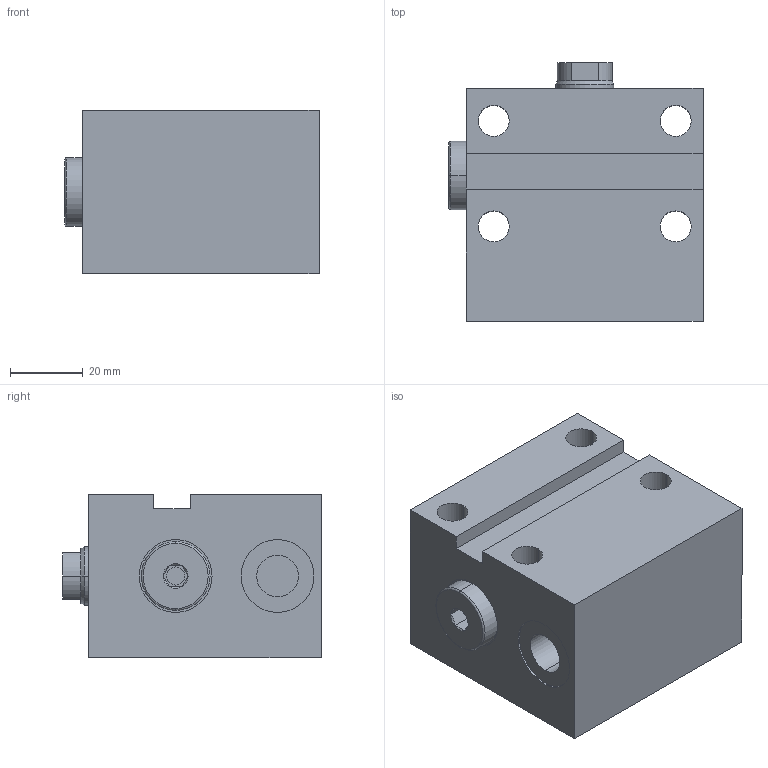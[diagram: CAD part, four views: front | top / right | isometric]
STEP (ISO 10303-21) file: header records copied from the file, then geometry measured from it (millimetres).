
FILE_DESCRIPTION (( 'STEP AP203' ), '1' );
FILE_NAME ('GERMA_Blockzylinder_651-025-008.STEP', '2023-08-26T14:42:11', ( '' ), ( '' ), 'SwSTEP 2.0', 'SolidWorks 2016', '' );
FILE_SCHEMA (( 'CONFIG_CONTROL_DESIGN' ));
Length unit declared in the file: millimetre
Products named in the file (3): GERMA_Blockzylinder_651-025-008; Kolben 60x-025_Kolben DU.25-Hub20-IG; GH-600-025-ew_GH 651-025-008
Assembly tree (2 placements, depth 2):
  GERMA_Blockzylinder_651-025-008
    GH-600-025-ew_GH 651-025-008
    Kolben 60x-025_Kolben DU.25-Hub20-IG
Bounding box: 69.8 x 71 x 45 mm (x, y, z)
Volume: 170403.1 mm3; surface area: 34853.6 mm2
Topology: 2 solids, 2 shells, 99 faces, 227 edges, 142 vertices
Faces by surface type: cylinder 41, plane 35, cone 21, torus 2
Entity records: 3141 total; most frequent: CARTESIAN_POINT 530, DIRECTION 526, ORIENTED_EDGE 442, EDGE_CURVE 221, AXIS2_PLACEMENT_3D 208, VERTEX_POINT 142, EDGE_LOOP 123, LINE 110
